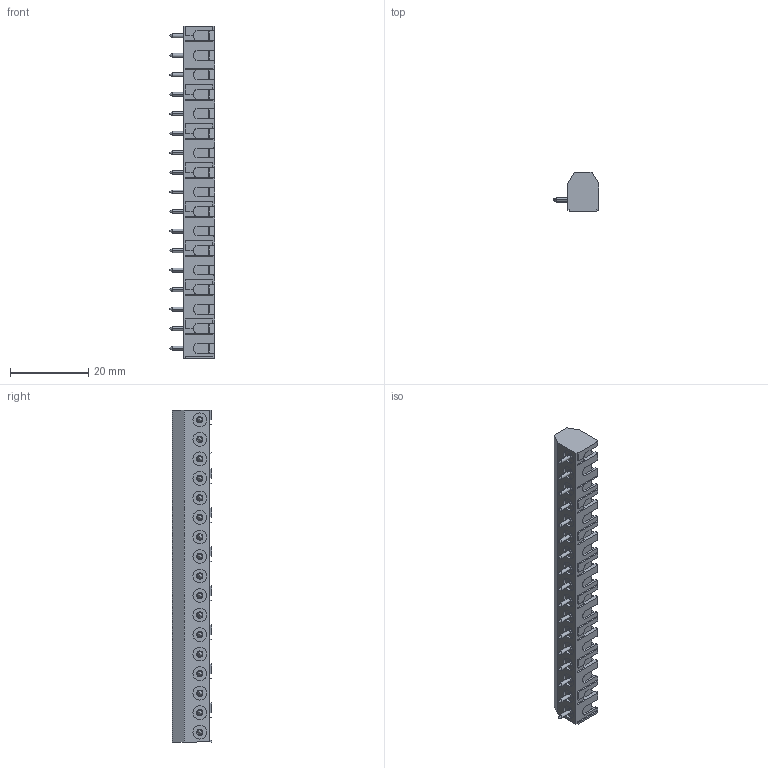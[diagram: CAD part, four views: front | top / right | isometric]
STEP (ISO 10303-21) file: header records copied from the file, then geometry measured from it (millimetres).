
FILE_DESCRIPTION (( 'STEP AP214' ), '1' );
FILE_NAME ('951-FB-17.STEP', '2008-03-13T05:48:43', ( ' ' ), ( '' ), 'SwSTEP 2.0', 'SolidWorks 2007', '' );
FILE_SCHEMA (( 'AUTOMOTIVE_DESIGN' ));
Length unit declared in the file: millimetre
Products named in the file (1): 951-FB-17
Bounding box: 11.7 x 10 x 85 mm (x, y, z)
Volume: 4603.7 mm3; surface area: 4952.8 mm2
Topology: 1 solids, 1 shells, 1464 faces, 4279 edges, 2800 vertices
Faces by surface type: plane 964, cylinder 382, cone 84, bspline 34
Entity records: 51227 total; most frequent: CARTESIAN_POINT 12317, ORIENTED_EDGE 8558, DIRECTION 7740, EDGE_CURVE 4279, VECTOR 2934, LINE 2934, VERTEX_POINT 2800, AXIS2_PLACEMENT_3D 2403
